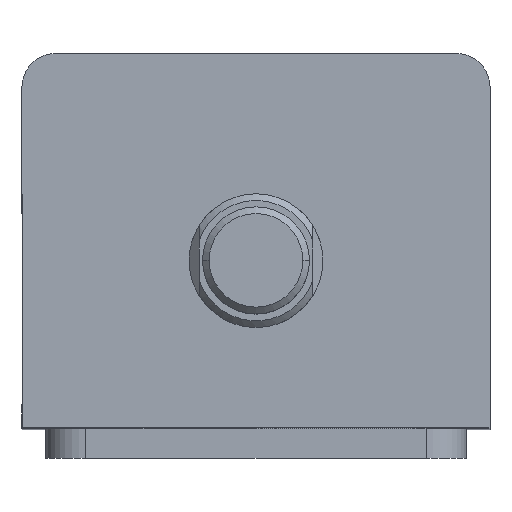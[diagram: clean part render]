
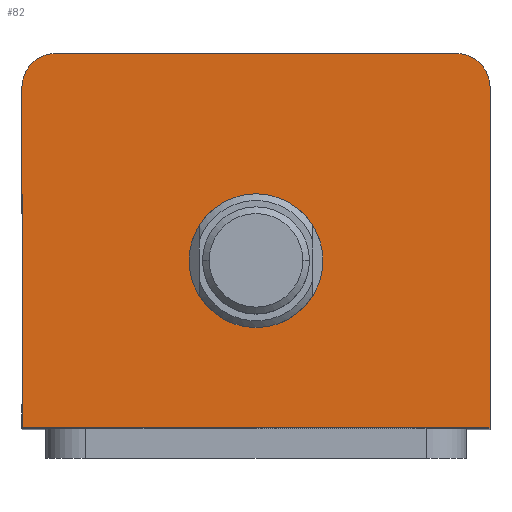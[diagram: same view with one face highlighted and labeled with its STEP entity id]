
A CAD part, top view. The second image highlights one B-rep face of the part: STEP entity #82.
In plain terms, the highlighted planar face has unit normal (0, 0, 1).
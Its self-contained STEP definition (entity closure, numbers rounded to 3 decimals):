
#82 = ADVANCED_FACE ( 'NONE', ( #1932, #1937 ), #1555, .T. ) ;
#143 = ORIENTED_EDGE ( 'NONE', *, *, #2529, .T. ) ;
#293 = AXIS2_PLACEMENT_3D ( 'NONE', #2223, #2222, #2221 ) ;
#318 = AXIS2_PLACEMENT_3D ( 'NONE', #2341, #2302, #2295 ) ;
#328 = AXIS2_PLACEMENT_3D ( 'NONE', #785, #784, #783 ) ;
#359 = AXIS2_PLACEMENT_3D ( 'NONE', #1023, #1022, #1019 ) ;
#375 = ORIENTED_EDGE ( 'NONE', *, *, #2672, .T. ) ;
#382 = ORIENTED_EDGE ( 'NONE', *, *, #2562, .F. ) ;
#389 = ORIENTED_EDGE ( 'NONE', *, *, #2701, .T. ) ;
#397 = ORIENTED_EDGE ( 'NONE', *, *, #2650, .T. ) ;
#398 = ORIENTED_EDGE ( 'NONE', *, *, #2586, .T. ) ;
#402 = ORIENTED_EDGE ( 'NONE', *, *, #2507, .F. ) ;
#404 = VERTEX_POINT ( 'NONE', #920 ) ;
#533 = CIRCLE ( 'NONE', #359, 10. ) ;
#564 = LINE ( 'NONE', #936, #567 ) ;
#567 = VECTOR ( 'NONE', #951, 1000. ) ;
#610 = CIRCLE ( 'NONE', #328, 10. ) ;
#649 = CIRCLE ( 'NONE', #318, 5. ) ;
#695 = LINE ( 'NONE', #2102, #698 ) ;
#698 = VECTOR ( 'NONE', #2109, 1000. ) ;
#783 = DIRECTION ( 'NONE',  ( 1., 0., 0. ) ) ;
#784 = DIRECTION ( 'NONE',  ( 0., 0., 1. ) ) ;
#785 = CARTESIAN_POINT ( 'NONE',  ( 0., -3., 149. ) ) ;
#795 = CARTESIAN_POINT ( 'NONE',  ( -30., 28., 149. ) ) ;
#920 = CARTESIAN_POINT ( 'NONE',  ( 30., 28., 149. ) ) ;
#936 = CARTESIAN_POINT ( 'NONE',  ( -35., -28., 149. ) ) ;
#951 = DIRECTION ( 'NONE',  ( 1., 0., 0. ) ) ;
#1019 = DIRECTION ( 'NONE',  ( 1., 0., 0. ) ) ;
#1022 = DIRECTION ( 'NONE',  ( 0., 0., 1. ) ) ;
#1023 = CARTESIAN_POINT ( 'NONE',  ( 0., -3., 149. ) ) ;
#1136 = CIRCLE ( 'NONE', #293, 5. ) ;
#1170 = LINE ( 'NONE', #2138, #1173 ) ;
#1173 = VECTOR ( 'NONE', #2134, 1000. ) ;
#1218 = LINE ( 'NONE', #2046, #1221 ) ;
#1221 = VECTOR ( 'NONE', #2042, 1000. ) ;
#1459 = VERTEX_POINT ( 'NONE', #795 ) ;
#1549 = DIRECTION ( 'NONE',  ( 1., 0., 0. ) ) ;
#1550 = DIRECTION ( 'NONE',  ( 0., 0., 1. ) ) ;
#1555 = PLANE ( 'NONE',  #2442 ) ;
#1561 = CARTESIAN_POINT ( 'NONE',  ( 0., 0., 149. ) ) ;
#1773 = EDGE_LOOP ( 'NONE', ( #382, #402 ) ) ;
#1782 = EDGE_LOOP ( 'NONE', ( #375, #398, #389, #397, #3178, #143 ) ) ;
#1932 = FACE_BOUND ( 'NONE', #1773, .T. ) ;
#1937 = FACE_OUTER_BOUND ( 'NONE', #1782, .T. ) ;
#2035 = CARTESIAN_POINT ( 'NONE',  ( -35., 23., 149. ) ) ;
#2042 = DIRECTION ( 'NONE',  ( -1., 0., 0. ) ) ;
#2046 = CARTESIAN_POINT ( 'NONE',  ( -35., 28., 149. ) ) ;
#2102 = CARTESIAN_POINT ( 'NONE',  ( -35., 28., 149. ) ) ;
#2109 = DIRECTION ( 'NONE',  ( 0., -1., 0. ) ) ;
#2134 = DIRECTION ( 'NONE',  ( 0., 1., 0. ) ) ;
#2138 = CARTESIAN_POINT ( 'NONE',  ( 35., 28., 149. ) ) ;
#2221 = DIRECTION ( 'NONE',  ( 1., 0., 0. ) ) ;
#2222 = DIRECTION ( 'NONE',  ( 0., 0., 1. ) ) ;
#2223 = CARTESIAN_POINT ( 'NONE',  ( -30., 23., 149. ) ) ;
#2295 = DIRECTION ( 'NONE',  ( 1., 0., 0. ) ) ;
#2302 = DIRECTION ( 'NONE',  ( 0., 0., 1. ) ) ;
#2341 = CARTESIAN_POINT ( 'NONE',  ( 30., 23., 149. ) ) ;
#2442 = AXIS2_PLACEMENT_3D ( 'NONE', #1561, #1550, #1549 ) ;
#2507 = EDGE_CURVE ( 'NONE', #2776, #2816, #533, .T. ) ;
#2529 = EDGE_CURVE ( 'NONE', #2811, #2779, #564, .T. ) ;
#2562 = EDGE_CURVE ( 'NONE', #2816, #2776, #610, .T. ) ;
#2586 = EDGE_CURVE ( 'NONE', #2996, #404, #649, .T. ) ;
#2615 = EDGE_CURVE ( 'NONE', #2705, #2811, #695, .T. ) ;
#2650 = EDGE_CURVE ( 'NONE', #1459, #2705, #1136, .T. ) ;
#2672 = EDGE_CURVE ( 'NONE', #2779, #2996, #1170, .T. ) ;
#2701 = EDGE_CURVE ( 'NONE', #404, #1459, #1218, .T. ) ;
#2705 = VERTEX_POINT ( 'NONE', #2035 ) ;
#2776 = VERTEX_POINT ( 'NONE', #3006 ) ;
#2779 = VERTEX_POINT ( 'NONE', #3002 ) ;
#2811 = VERTEX_POINT ( 'NONE', #3030 ) ;
#2816 = VERTEX_POINT ( 'NONE', #3025 ) ;
#2996 = VERTEX_POINT ( 'NONE', #3093 ) ;
#3002 = CARTESIAN_POINT ( 'NONE',  ( 35., -28., 149. ) ) ;
#3006 = CARTESIAN_POINT ( 'NONE',  ( -10., -3., 149. ) ) ;
#3025 = CARTESIAN_POINT ( 'NONE',  ( 10., -3., 149. ) ) ;
#3030 = CARTESIAN_POINT ( 'NONE',  ( -35., -28., 149. ) ) ;
#3093 = CARTESIAN_POINT ( 'NONE',  ( 35., 23., 149. ) ) ;
#3178 = ORIENTED_EDGE ( 'NONE', *, *, #2615, .T. ) ;
